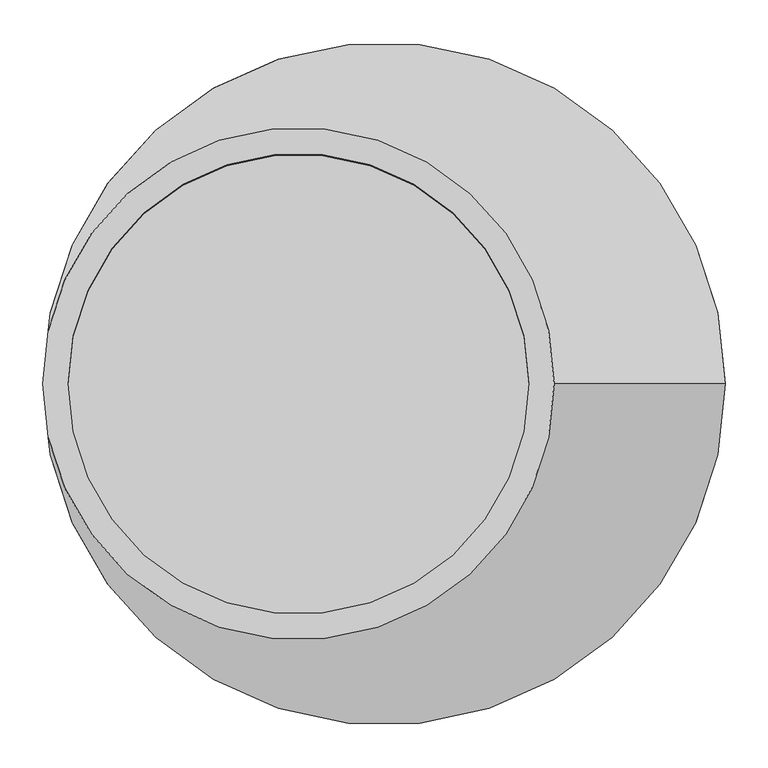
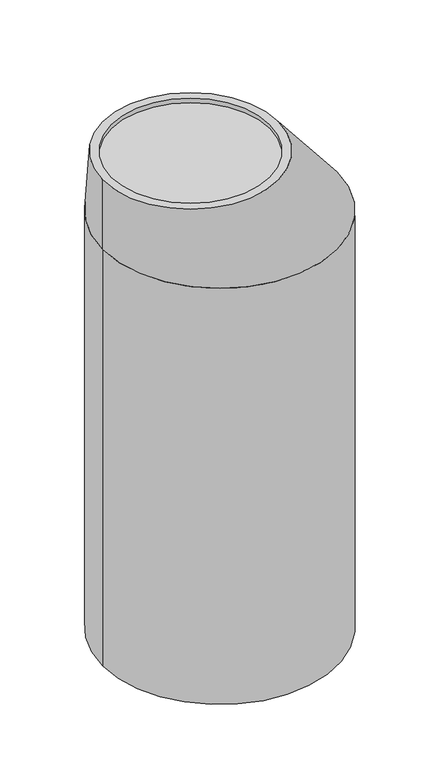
"""IFC4 building model written with IfcOpenShell, lengths in millimetres: flow terminal geometry, Schlammsammler : Strassenablauf (Schlammsammler)."""

from ifc_helpers import new_model, si_unit, point, frame, frame_2d, origin, origin_with_axes, place, context, project, spatial, circle_curve, trimmed, segment, composite_curve, outline, extrude, source, transform, mapped, element, save
from ifc_brep_helpers import plane_surface, spline_surface, advanced_brep


def flow_terminal_b57fc72c(model_context):
    return source(origin(), model_context, "Body", "SolidModel", [
        advanced_brep(
        [(-300.0, 0.0, 0.0), (300.0, 0.0, 0.0), (-270.0, 0.0, 0.0), (270.0, 0.0, 0.0), (-300.0, 0.0, -250.0), (500.0, 0.0, -250.0), (470.0, 0.0, -250.0), (-270.0, 0.0, -250.0)],
        [
            (0, 1, circle_curve(origin_with_axes(), 300.0)),
            (1, 0, circle_curve(origin_with_axes(), 300.0)),
            (2, 3, circle_curve(frame((0.0, 0.0, 0.0), z_axis=(0.0, 0.0, -1.0), x_axis=(1.0, 0.0, 0.0)), 270.0)),
            (3, 2, circle_curve(frame((0.0, 0.0, 0.0), z_axis=(0.0, 0.0, -1.0), x_axis=(1.0, 0.0, 0.0)), 270.0)),
            (4, 5, circle_curve(frame((100.0, 0.0, -250.0), z_axis=(0.0, 0.0, -1.0), x_axis=(1.0, 0.0, 0.0)), 400.0)),
            (5, 4, circle_curve(frame((100.0, 0.0, -250.0), z_axis=(0.0, 0.0, -1.0), x_axis=(1.0, 0.0, 0.0)), 400.0)),
            (6, 7, circle_curve(frame((100.0, 0.0, -250.0), z_axis=(0.0, 0.0, 1.0), x_axis=(1.0, 0.0, 0.0)), 370.0)),
            (7, 6, circle_curve(frame((100.0, 0.0, -250.0), z_axis=(0.0, 0.0, 1.0), x_axis=(1.0, 0.0, 0.0)), 370.0)),
            (0, 4),
            (5, 1),
            (6, 3),
            (2, 7),
        ],
        [
            plane_surface(frame((0.0, 0.0, 0.0), z_axis=(0.0, 0.0, 1.0), x_axis=(0.0, -1.0, 0.0))),
            plane_surface(frame((100.0, 0.0, -250.0), z_axis=(0.0, 0.0, -1.0), x_axis=(0.0, -1.0, 0.0))),
            spline_surface(2, 1, [[(-300.0, 0.0, -250.0), (-300.0, 0.0, 0.0)], [(-300.0, -400.0, -250.0), (-300.0, -300.0, 0.0)], [(100.0, -400.0, -250.0), (0.0, -300.0, 0.0)], [(500.0, -400.0, -250.0), (300.0, -300.0, 0.0)], [(500.0, 0.0, -250.0), (300.0, 0.0, 0.0)]], [3, 2, 3], [2, 2], [0.0, 1.0, 2.0], [0.0, 1.0], weights=[[1.0, 1.0], [0.7071067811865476, 0.7071067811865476], [1.0, 1.0], [0.7071067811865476, 0.7071067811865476], [1.0, 1.0]]),
            spline_surface(2, 1, [[(500.0, 0.0, -250.0), (300.0, 0.0, 0.0)], [(500.0, 400.0, -250.0), (300.0, 300.0, 0.0)], [(100.0, 400.0, -250.0), (0.0, 300.0, 0.0)], [(-300.0, 400.0, -250.0), (-300.0, 300.0, 0.0)], [(-300.0, 0.0, -250.0), (-300.0, 0.0, 0.0)]], [3, 2, 3], [2, 2], [0.0, 1.0, 2.0], [0.0, 1.0], weights=[[1.0, 1.0], [0.7071067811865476, 0.7071067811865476], [1.0, 1.0], [0.7071067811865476, 0.7071067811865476], [1.0, 1.0]]),
            spline_surface(1, 2, [[(470.0, 0.0, -250.0), (470.0, 370.0, -250.0), (100.0, 370.0, -250.0), (-270.0, 370.0, -250.0), (-270.0, 0.0, -250.0)], [(270.0, 0.0, 0.0), (270.0, 270.0, 0.0), (0.0, 270.0, 0.0), (-270.0, 270.0, 0.0), (-270.0, 0.0, 0.0)]], [2, 2], [3, 2, 3], [0.0, 1.0], [0.0, 1.0, 2.0], weights=[[1.0, 0.7071067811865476, 1.0, 0.7071067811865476, 1.0], [1.0, 0.7071067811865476, 1.0, 0.7071067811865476, 1.0]]),
            spline_surface(1, 2, [[(-270.0, 0.0, -250.0), (-270.0, -370.0, -250.0), (100.0, -370.0, -250.0), (470.0, -370.0, -250.0), (470.0, 0.0, -250.0)], [(-270.0, 0.0, 0.0), (-270.0, -270.0, 0.0), (0.0, -270.0, 0.0), (270.0, -270.0, 0.0), (270.0, 0.0, 0.0)]], [2, 2], [3, 2, 3], [0.0, 1.0], [0.0, 1.0, 2.0], weights=[[1.0, 0.7071067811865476, 1.0, 0.7071067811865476, 1.0], [1.0, 0.7071067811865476, 1.0, 0.7071067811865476, 1.0]]),
        ],
        [
            (0, [[1, 2], [3, 4]]),
            (1, [[5, 6], [7, 8]]),
            (2, [[-1, 9, -6, 10]]),
            (3, [[-2, -10, -5, -9]]),
            (4, [[11, -3, 12, -7]]),
            (5, [[-11, -8, -12, -4]]),
        ],
    ),
        extrude(outline(composite_curve([segment(trimmed(circle_curve(frame_2d((100.0, 0.0)), 370.0), [point((-270.0, 0.0))], [point((470.0, 0.0))], False, "CARTESIAN"), True, "CONTINUOUS"), segment(trimmed(circle_curve(frame_2d((100.0, 0.0)), 370.0), [point((470.0, 0.0))], [point((-270.0, 0.0))], False, "CARTESIAN"), True, "CONTINUOUS")], self_intersect=False)), frame((0.0, 0.0, -1750.0), z_axis=(0.0, 0.0, 1.0), x_axis=(1.0, 0.0, 0.0)), (0.0, 0.0, 1.0), 50.0),
        extrude(outline(composite_curve([segment(trimmed(circle_curve(frame_2d((0.0, -1.1120167)), 270.0), [point((270.0, -1.1120167))], [point((-270.0, -1.1120167))], False, "CARTESIAN"), True, "CONTINUOUS"), segment(trimmed(circle_curve(frame_2d((0.0, -1.1120167)), 270.0), [point((-270.0, -1.1120167))], [point((270.0, -1.1120167))], False, "CARTESIAN"), True, "CONTINUOUS")], self_intersect=False)), frame((0.0, 0.0, -43.6655101), z_axis=(0.0, 0.0, 1.0), x_axis=(1.0, 0.0, 0.0)), (0.0, 0.0, 1.0), 28.9841859),
        extrude(outline(composite_curve([segment(trimmed(circle_curve(frame_2d((100.0, 0.0)), 400.0), [point((500.0, 0.0))], [point((-300.0, 0.0))], False, "CARTESIAN"), True, "CONTINUOUS"), segment(trimmed(circle_curve(frame_2d((100.0, 0.0)), 400.0), [point((-300.0, 0.0))], [point((500.0, 0.0))], False, "CARTESIAN"), True, "CONTINUOUS")], self_intersect=False), holes=[composite_curve([segment(trimmed(circle_curve(frame_2d((100.0, 0.0)), 370.0), [point((470.0, 0.0))], [point((-270.0, 0.0))], True, "CARTESIAN"), True, "CONTINUOUS"), segment(trimmed(circle_curve(frame_2d((100.0, 0.0)), 370.0), [point((-270.0, 0.0))], [point((470.0, 0.0))], True, "CARTESIAN"), True, "CONTINUOUS")], self_intersect=False)]), frame((0.0, 0.0, -1750.0), z_axis=(0.0, 0.0, 1.0), x_axis=(1.0, 0.0, 0.0)), (0.0, 0.0, 1.0), 1500.0),
    ])


if __name__ == "__main__":
    model = new_model("IFC4")
    model_context = context("Model", 3, world=origin())
    ifc_project = project(units=[si_unit("LENGTHUNIT", "METRE", prefix="MILLI")], contexts=[model_context])
    site = spatial("IfcSite", under=ifc_project)
    building = spatial("IfcBuilding", under=site)
    placement = place(None, origin())
    flow_terminal_shape = flow_terminal_b57fc72c(model_context)
    element("IfcFlowTerminal", 1, ObjectType="Schlammsammler : Strassenablauf (Schlammsammler)", at=placement, inside=building, context=model_context, shape_type="MappedRepresentation", body=[
        mapped(flow_terminal_shape, transform((0.0, 0.0, 0.0), x_axis=(1.0, 0.0, 0.0), y_axis=(0.0, 1.0, 0.0), z_axis=(0.0, 0.0, 1.0))),
    ])
    save(model, "model.ifc")
